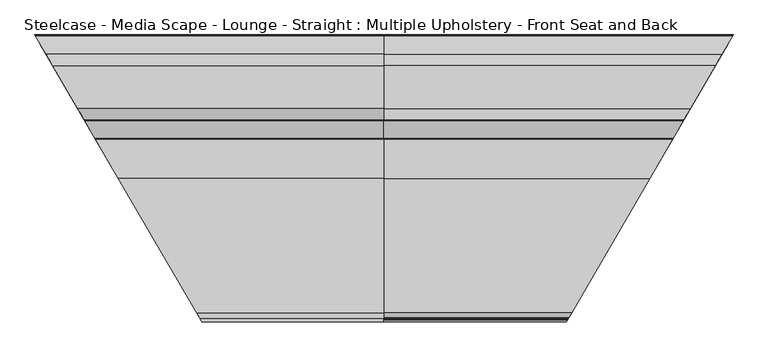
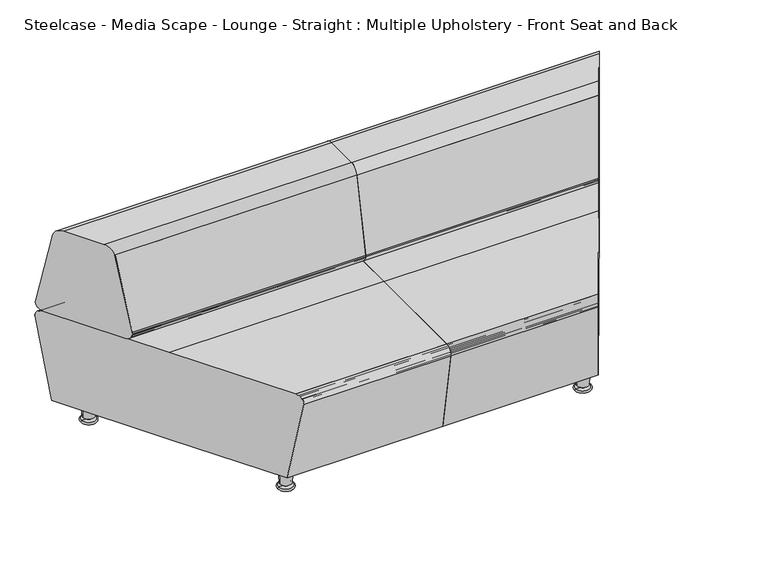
"""IFC4 building model written with IfcOpenShell, lengths in millimetres: furniture geometry, Steelcase - Media Scape - Lounge - Straight : Multiple Upholstery - Front Seat and Back."""

from ifc_helpers import new_model, si_unit, point, frame, origin, place, context, project, spatial, polyline, circle_curve, ellipse_curve, trimmed, source, transform, mapped, element, save
from ifc_brep_helpers import plane_surface, cylinder_surface, revolved_surface, advanced_brep


def steelcase_media_scape_lounge_straight_multiple_upholstery_0c6f12ab(model_context):
    return source(origin(), model_context, "Body", "AdvancedBrep", [
        advanced_brep(
        [(528.9638527, 744.618392, 735.1171206), (528.9638527, 619.0683436, 735.1171206), (528.9638527, 585.640659, 707.6422134), (528.9638527, 531.7822003, 434.7626426), (528.9638527, 556.7014693, 404.4443065), (528.9638527, 806.9852663, 404.4443065), (528.9638527, 831.9045354, 434.7626426), (528.9638527, 778.0460766, 707.6422134), (-452.3869175, 778.0460766, 707.6422134), (-432.9507329, 744.618392, 735.1171206), (-483.7023664, 831.9045354, 434.7626426), (-469.2133128, 806.9852663, 404.4443065), (-323.688364, 556.7014693, 404.4443065), (-309.1993104, 531.7822003, 434.7626426), (-340.5147593, 585.640659, 707.6422134), (-359.950944, 619.0683436, 735.1171206)],
        [
            (0, 1),
            (1, 2, circle_curve(frame((528.9638527, 619.0683436, 701.0445646), z_axis=(1.0, 0.0, 0.0), x_axis=(0.0, -1.0, 0.0)), 34.0725559)),
            (2, 3),
            (3, 4, circle_curve(frame((528.9638527, 556.7014693, 429.8443065), z_axis=(1.0, 0.0, 0.0), x_axis=(0.0, -1.0, 0.0)), 25.4)),
            (4, 5),
            (5, 6, circle_curve(frame((528.9638527, 806.9852663, 429.8443065), z_axis=(1.0, 0.0, 0.0), x_axis=(0.0, 1.0, 0.0)), 25.4)),
            (6, 7),
            (7, 0, circle_curve(frame((528.9638527, 744.618392, 701.0445646), z_axis=(1.0, 0.0, 0.0), x_axis=(0.0, 1.0, 0.0)), 34.0725559)),
            (7, 8),
            (8, 9, ellipse_curve(frame((-432.9507329, 744.618392, 701.0445646), z_axis=(0.8644905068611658, 0.5026491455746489, 0.0), x_axis=(-0.5026491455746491, 0.8644905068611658, 0.0)), 39.413453, 34.0725559)),
            (9, 0),
            (6, 10),
            (10, 8),
            (5, 11),
            (11, 10, ellipse_curve(frame((-469.2133128, 806.9852663, 429.8443065), z_axis=(0.8644905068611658, 0.5026491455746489, 0.0), x_axis=(-0.5026491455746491, 0.8644905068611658, 0.0)), 29.3814678, 25.4)),
            (4, 12),
            (12, 11),
            (3, 13),
            (13, 12, ellipse_curve(frame((-323.688364, 556.7014693, 429.8443065), z_axis=(0.8644905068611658, 0.5026491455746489, 0.0), x_axis=(-0.502649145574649, 0.8644905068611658, 0.0)), 29.3814678, 25.4)),
            (2, 14),
            (14, 13),
            (1, 15),
            (15, 14, ellipse_curve(frame((-359.950944, 619.0683436, 701.0445646), z_axis=(0.8644905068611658, 0.5026491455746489, 0.0), x_axis=(-0.502649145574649, 0.8644905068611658, 0.0)), 39.413453, 34.0725559)),
            (9, 15),
        ],
        [
            plane_surface(frame((528.9638527, 778.690948, 701.0445646), z_axis=(1.0, 0.0, 0.0), x_axis=(0.0, 0.0, 1.0))),
            cylinder_surface(frame((528.9638527, 744.618392, 701.0445646), z_axis=(-1.0, 0.0, 0.0), x_axis=(0.0, 1.0, 0.0)), 34.0725559),
            plane_surface(frame((-497.7585178, 778.0460766, 707.6422134), z_axis=(0.0, 0.9810735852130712, 0.19363527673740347), x_axis=(1.0, 0.0, 0.0))),
            cylinder_surface(frame((528.9638527, 806.9852663, 429.8443065), z_axis=(-1.0, 0.0, 0.0), x_axis=(0.0, 1.0, 0.0)), 25.4),
            plane_surface(frame((-497.7585178, 806.9852663, 404.4443065), z_axis=(0.0, 0.0, -1.0), x_axis=(1.0, 0.0, 0.0))),
            cylinder_surface(frame((528.9638527, 556.7014693, 429.8443065), z_axis=(-1.0, 0.0, 0.0), x_axis=(0.0, -1.0, 0.0)), 25.4),
            plane_surface(frame((-497.7585178, 531.7822003, 434.7626426), z_axis=(0.0, -0.9810735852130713, 0.1936352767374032), x_axis=(1.0, 0.0, 0.0))),
            cylinder_surface(frame((528.9638527, 619.0683436, 701.0445646), z_axis=(-1.0, 0.0, 0.0), x_axis=(0.0, -1.0, 0.0)), 34.0725559),
            plane_surface(frame((-497.7585178, 619.0683436, 735.1171206), z_axis=(0.0, 0.0, 1.0), x_axis=(1.0, 0.0, 0.0))),
            plane_surface(frame((22.6450752, -38.9465548, 744.9721396), z_axis=(-0.8644905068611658, -0.5026491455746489, 0.0), x_axis=(0.0, 0.0, -1.0))),
        ],
        [
            (0, [[1, 2, 3, 4, 5, 6, 7, 8]]),
            (1, [[-8, 9, 10, 11]]),
            (2, [[-7, 12, 13, -9]]),
            (3, [[-6, 14, 15, -12]]),
            (4, [[-5, 16, 17, -14]]),
            (5, [[-4, 18, 19, -16]]),
            (6, [[-3, 20, 21, -18]]),
            (7, [[-2, 22, 23, -20]]),
            (8, [[-1, -11, 24, -22]]),
            (9, [[-10, -13, -15, -17, -19, -21, -23, -24]]),
        ],
    ),
        advanced_brep(
        [(528.9638527, 416.9525328, 404.4443065), (528.9638527, 25.4465658, 404.4443065), (528.9638527, 0.4050887, 374.7917281), (528.9638527, 51.3770305, 74.6414242), (528.9638527, 416.9525328, 74.6414242), (528.9638527, 782.5280351, 74.6414242), (528.9638527, 833.4999769, 374.7917281), (528.9638527, 808.4584998, 404.4443065), (-242.4327771, 416.9525328, 404.4443065), (-14.7956449, 25.4465658, 404.4443065), (-0.2355347, 0.4050887, 374.7917281), (-29.8726479, 51.3770305, 74.6414242), (-242.4327771, 416.9525328, 74.6414242), (-454.9929064, 782.5280351, 74.6414242), (-484.6300196, 833.4999769, 374.7917281), (-470.0699093, 808.4584998, 404.4443065)],
        [
            (0, 1),
            (1, 2, circle_curve(frame((528.9638527, 25.4465658, 379.0443065), z_axis=(1.0, 0.0, 0.0), x_axis=(0.0, -1.0, 0.0)), 25.4)),
            (2, 3),
            (3, 4),
            (4, 5),
            (5, 6),
            (6, 7, circle_curve(frame((528.9638527, 808.4584998, 379.0443065), z_axis=(1.0, 0.0, 0.0), x_axis=(0.0, 1.0, 0.0)), 25.4)),
            (7, 0),
            (0, 8),
            (8, 9),
            (9, 1),
            (9, 10, ellipse_curve(frame((-14.7956449, 25.4465658, 379.0443065), z_axis=(0.8644905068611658, 0.5026491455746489, 0.0), x_axis=(0.502649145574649, -0.8644905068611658, 0.0)), 29.3814678, 25.4)),
            (10, 2),
            (10, 11),
            (11, 3),
            (11, 12),
            (12, 4),
            (12, 13),
            (13, 5),
            (13, 14),
            (14, 6),
            (14, 15, ellipse_curve(frame((-470.0699093, 808.4584998, 379.0443065), z_axis=(0.8644905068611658, 0.5026491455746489, 0.0), x_axis=(0.502649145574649, -0.8644905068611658, 0.0)), 29.3814678, 25.4)),
            (15, 7),
            (15, 8),
        ],
        [
            plane_surface(frame((528.9638527, -57.5722485, 404.4443065), z_axis=(1.0, 0.0, 0.0), x_axis=(0.0, -1.0, 0.0))),
            plane_surface(frame((528.9638527, 416.9525328, 404.4443065), z_axis=(0.0, 0.0, 1.0), x_axis=(-1.0, 0.0, 0.0))),
            cylinder_surface(frame((-497.7585178, 25.4465658, 379.0443065), z_axis=(1.0, 0.0, 0.0), x_axis=(0.0, -1.0, 0.0)), 25.4),
            plane_surface(frame((528.9638527, 0.4050887, 374.7917281), z_axis=(0.0, -0.9858849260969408, -0.16742434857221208), x_axis=(-1.0, 0.0, 0.0))),
            plane_surface(frame((528.9638527, 51.3770305, 74.6414242), z_axis=(0.0, 0.0, -1.0), x_axis=(-1.0, 0.0, 0.0))),
            plane_surface(frame((528.9638527, 416.9525328, 74.6414242), z_axis=(0.0, 0.0, -1.0), x_axis=(-1.0, 0.0, 0.0))),
            plane_surface(frame((528.9638527, 782.5280351, 74.6414242), z_axis=(0.0, 0.9858849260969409, -0.1674243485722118), x_axis=(-1.0, 0.0, 0.0))),
            cylinder_surface(frame((-497.7585178, 808.4584998, 379.0443065), z_axis=(1.0, 0.0, 0.0), x_axis=(0.0, 1.0, 0.0)), 25.4),
            plane_surface(frame((528.9638527, 808.4584998, 404.4443065), z_axis=(0.0, 0.0, 1.0), x_axis=(-1.0, 0.0, 0.0))),
            plane_surface(frame((22.6450752, -38.9465548, 744.9721396), z_axis=(-0.8644905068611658, -0.5026491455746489, 0.0), x_axis=(0.0, 0.0, -1.0))),
        ],
        [
            (0, [[1, 2, 3, 4, 5, 6, 7, 8]]),
            (1, [[-1, 9, 10, 11]]),
            (2, [[-2, -11, 12, 13]]),
            (3, [[-3, -13, 14, 15]]),
            (4, [[-4, -15, 16, 17]]),
            (5, [[-5, -17, 18, 19]]),
            (6, [[-6, -19, 20, 21]]),
            (7, [[-7, -21, 22, 23]]),
            (8, [[-8, -23, 24, -9]]),
            (9, [[-10, -24, -22, -20, -18, -16, -14, -12]]),
        ],
    ),
        advanced_brep(
        [(528.9638527, 416.9525328, 404.4443065), (528.9638527, 808.4584998, 404.4443065), (528.9638527, 833.4999769, 374.7917281), (528.9638527, 782.5280351, 74.6414242), (528.9638527, 416.9525328, 74.6414242), (528.9638527, 51.3770305, 74.6414242), (528.9638527, 0.4050887, 374.7917281), (528.9638527, 25.4465658, 404.4443065), (1301.6333208, 416.9525328, 404.4443065), (1528.798605, 808.4584998, 404.4443065), (1543.328535, 833.4999769, 374.7917281), (1513.7528538, 782.5280351, 74.6414242), (1301.6333208, 416.9525328, 74.6414242), (1089.5137878, 51.3770305, 74.6414242), (1059.9381066, 0.4050887, 374.7917281), (1074.4680366, 25.4465658, 404.4443065)],
        [
            (0, 1),
            (1, 2, circle_curve(frame((528.9638527, 808.4584998, 379.0443065), z_axis=(-1.0, 0.0, 0.0), x_axis=(0.0, 1.0, 0.0)), 25.4)),
            (2, 3),
            (3, 4),
            (4, 5),
            (5, 6),
            (6, 7, circle_curve(frame((528.9638527, 25.4465658, 379.0443065), z_axis=(-1.0, 0.0, 0.0), x_axis=(0.0, -1.0, 0.0)), 25.4)),
            (7, 0),
            (0, 8),
            (8, 9),
            (9, 1),
            (9, 10, ellipse_curve(frame((1528.798605, 808.4584998, 379.0443065), z_axis=(-0.8649431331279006, 0.5018698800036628, 0.0), x_axis=(-0.5018698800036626, -0.8649431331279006, 0.0)), 29.3660924, 25.4)),
            (10, 2),
            (10, 11),
            (11, 3),
            (11, 12),
            (12, 4),
            (12, 13),
            (13, 5),
            (13, 14),
            (14, 6),
            (14, 15, ellipse_curve(frame((1074.4680366, 25.4465658, 379.0443065), z_axis=(-0.8649431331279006, 0.5018698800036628, 0.0), x_axis=(-0.5018698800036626, -0.8649431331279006, 0.0)), 29.3660924, 25.4)),
            (15, 7),
            (15, 8),
        ],
        [
            plane_surface(frame((528.9638527, 891.4773142, 404.4443065), z_axis=(-1.0, 0.0, 0.0), x_axis=(0.0, 1.0, 0.0))),
            plane_surface(frame((528.9638527, 416.9525328, 404.4443065), z_axis=(0.0, 0.0, 1.0), x_axis=(1.0, 0.0, 0.0))),
            cylinder_surface(frame((1555.6862231, 808.4584998, 379.0443065), z_axis=(-1.0, 0.0, 0.0), x_axis=(0.0, 1.0, 0.0)), 25.4),
            plane_surface(frame((528.9638527, 833.4999769, 374.7917281), z_axis=(0.0, 0.9858849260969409, -0.1674243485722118), x_axis=(1.0, 0.0, 0.0))),
            plane_surface(frame((528.9638527, 782.5280351, 74.6414242), z_axis=(0.0, 0.0, -1.0), x_axis=(1.0, 0.0, 0.0))),
            plane_surface(frame((528.9638527, 416.9525328, 74.6414242), z_axis=(0.0, 0.0, -1.0), x_axis=(1.0, 0.0, 0.0))),
            plane_surface(frame((528.9638527, 51.3770305, 74.6414242), z_axis=(0.0, -0.9858849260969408, -0.16742434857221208), x_axis=(1.0, 0.0, 0.0))),
            cylinder_surface(frame((1555.6862231, 25.4465658, 379.0443065), z_axis=(-1.0, 0.0, 0.0), x_axis=(0.0, -1.0, 0.0)), 25.4),
            plane_surface(frame((528.9638527, 25.4465658, 404.4443065), z_axis=(0.0, 0.0, 1.0), x_axis=(1.0, 0.0, 0.0))),
            plane_surface(frame((1544.0895768, 834.8115876, 744.9721396), z_axis=(0.8649431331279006, -0.5018698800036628, 0.0), x_axis=(0.0, 0.0, -1.0))),
        ],
        [
            (0, [[1, 2, 3, 4, 5, 6, 7, 8]]),
            (1, [[-1, 9, 10, 11]]),
            (2, [[-2, -11, 12, 13]]),
            (3, [[-3, -13, 14, 15]]),
            (4, [[-4, -15, 16, 17]]),
            (5, [[-5, -17, 18, 19]]),
            (6, [[-6, -19, 20, 21]]),
            (7, [[-7, -21, 22, 23]]),
            (8, [[-8, -23, 24, -9]]),
            (9, [[-10, -24, -22, -20, -18, -16, -14, -12]]),
        ],
    ),
        advanced_brep(
        [(528.9638527, 744.618392, 735.1171206), (528.9638527, 778.0460766, 707.6422134), (528.9638527, 831.9045354, 434.7626426), (528.9638527, 806.9852663, 404.4443065), (528.9638527, 556.7014693, 404.4443065), (528.9638527, 531.7822003, 434.7626426), (528.9638527, 585.640659, 707.6422134), (528.9638527, 619.0683436, 735.1171206), (1418.9078951, 619.0683436, 735.1171206), (1491.7563695, 744.618392, 735.1171206), (1399.5119979, 585.640659, 707.6422134), (1368.26146, 531.7822003, 434.7626426), (1382.7204806, 556.7014693, 404.4443065), (1527.9437841, 806.9852663, 404.4443065), (1542.4028047, 831.9045354, 434.7626426), (1511.1522667, 778.0460766, 707.6422134)],
        [
            (0, 1, circle_curve(frame((528.9638527, 744.618392, 701.0445646), z_axis=(-1.0, 0.0, 0.0), x_axis=(0.0, 1.0, 0.0)), 34.0725559)),
            (1, 2),
            (2, 3, circle_curve(frame((528.9638527, 806.9852663, 429.8443065), z_axis=(-1.0, 0.0, 0.0), x_axis=(0.0, 1.0, 0.0)), 25.4)),
            (3, 4),
            (4, 5, circle_curve(frame((528.9638527, 556.7014693, 429.8443065), z_axis=(-1.0, 0.0, 0.0), x_axis=(0.0, -1.0, 0.0)), 25.4)),
            (5, 6),
            (6, 7, circle_curve(frame((528.9638527, 619.0683436, 701.0445646), z_axis=(-1.0, 0.0, 0.0), x_axis=(0.0, -1.0, 0.0)), 34.0725559)),
            (7, 0),
            (7, 8),
            (8, 9),
            (9, 0),
            (6, 10),
            (10, 8, ellipse_curve(frame((1418.9078951, 619.0683436, 701.0445646), z_axis=(-0.8649431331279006, 0.5018698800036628, 0.0), x_axis=(0.5018698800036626, 0.8649431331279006, 0.0)), 39.3928279, 34.0725559)),
            (5, 11),
            (11, 10),
            (4, 12),
            (12, 11, ellipse_curve(frame((1382.7204806, 556.7014693, 429.8443065), z_axis=(-0.8649431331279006, 0.5018698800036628, 0.0), x_axis=(0.5018698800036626, 0.8649431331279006, 0.0)), 29.3660924, 25.4)),
            (3, 13),
            (13, 12),
            (2, 14),
            (14, 13, ellipse_curve(frame((1527.9437841, 806.9852663, 429.8443065), z_axis=(-0.8649431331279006, 0.5018698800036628, 0.0), x_axis=(0.5018698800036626, 0.8649431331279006, 0.0)), 29.3660924, 25.4)),
            (1, 15),
            (15, 14),
            (9, 15, ellipse_curve(frame((1491.7563695, 744.618392, 701.0445646), z_axis=(-0.8649431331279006, 0.5018698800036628, 0.0), x_axis=(0.5018698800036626, 0.8649431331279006, 0.0)), 39.3928279, 34.0725559)),
        ],
        [
            plane_surface(frame((528.9638527, 567.2050656, 735.1171206), z_axis=(-1.0, 0.0, 0.0), x_axis=(0.0, 1.0, 0.0))),
            plane_surface(frame((1555.6862231, 744.618392, 735.1171206), z_axis=(0.0, 0.0, 1.0), x_axis=(-1.0, 0.0, 0.0))),
            cylinder_surface(frame((528.9638527, 619.0683436, 701.0445646), z_axis=(1.0, 0.0, 0.0), x_axis=(0.0, -1.0, 0.0)), 34.0725559),
            plane_surface(frame((1555.6862231, 585.640659, 707.6422134), z_axis=(0.0, -0.9810735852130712, 0.19363527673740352), x_axis=(-1.0, 0.0, 0.0))),
            cylinder_surface(frame((528.9638527, 556.7014693, 429.8443065), z_axis=(1.0, 0.0, 0.0), x_axis=(0.0, -1.0, 0.0)), 25.4),
            plane_surface(frame((1555.6862231, 556.7014693, 404.4443065), z_axis=(0.0, 0.0, -1.0), x_axis=(-1.0, 0.0, 0.0))),
            cylinder_surface(frame((528.9638527, 806.9852663, 429.8443065), z_axis=(1.0, 0.0, 0.0), x_axis=(0.0, 1.0, 0.0)), 25.4),
            plane_surface(frame((1555.6862231, 831.9045354, 434.7626426), z_axis=(0.0, 0.9810735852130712, 0.19363527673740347), x_axis=(-1.0, 0.0, 0.0))),
            cylinder_surface(frame((528.9638527, 744.618392, 701.0445646), z_axis=(1.0, 0.0, 0.0), x_axis=(0.0, 1.0, 0.0)), 34.0725559),
            plane_surface(frame((1544.0895768, 834.8115876, 744.9721396), z_axis=(0.8649431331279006, -0.5018698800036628, 0.0), x_axis=(0.0, 0.0, -1.0))),
        ],
        [
            (0, [[1, 2, 3, 4, 5, 6, 7, 8]]),
            (1, [[-8, 9, 10, 11]]),
            (2, [[-7, 12, 13, -9]]),
            (3, [[-6, 14, 15, -12]]),
            (4, [[-5, 16, 17, -14]]),
            (5, [[-4, 18, 19, -16]]),
            (6, [[-3, 20, 21, -18]]),
            (7, [[-2, 22, 23, -20]]),
            (8, [[-1, -11, 24, -22]]),
            (9, [[-10, -13, -15, -17, -19, -21, -23, -24]]),
        ],
    ),
        advanced_brep(
        [(528.9638527, 556.3973372, 404.1903065), (528.9638527, 531.4780681, 434.5086426), (528.9638527, 585.386659, 707.6422134), (528.9638527, 586.4222592, 707.6422134), (528.9638527, 532.5050909, 434.4651844), (528.9638527, 556.5535694, 405.2063065), (528.9638527, 807.0353985, 405.2063065), (528.9638527, 807.0353985, 404.1903065), (1527.9728725, 807.0353985, 404.1903065), (1382.5440126, 556.3973372, 404.1903065), (1527.9728725, 807.0353985, 405.2063065), (1382.6346639, 556.5535694, 405.2063065), (1368.6809061, 532.5050909, 434.4651844), (1399.9655094, 586.4222592, 707.6422134), (1399.3646184, 585.386659, 707.6422134), (1368.084992, 531.4780681, 434.5086426)],
        [
            (0, 1, circle_curve(frame((528.9638527, 556.3973372, 429.5903065), z_axis=(-1.0, 0.0, 0.0), x_axis=(0.0, -1.0, 0.0)), 25.4)),
            (1, 2),
            (2, 3),
            (3, 4),
            (4, 5, circle_curve(frame((528.9638527, 556.5535694, 429.718717), z_axis=(1.0, 0.0, 0.0), x_axis=(0.0, -1.0, 0.0)), 24.5124105)),
            (5, 6),
            (6, 7),
            (7, 0),
            (7, 8),
            (8, 9),
            (9, 0),
            (6, 10),
            (10, 8),
            (5, 11),
            (11, 10),
            (4, 12),
            (12, 11, ellipse_curve(frame((1382.6346639, 556.5535694, 429.718717), z_axis=(0.8649431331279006, -0.5018698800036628, 0.0), x_axis=(-0.5018698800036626, -0.8649431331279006, 0.0)), 28.33991, 24.5124105)),
            (3, 13),
            (13, 12),
            (2, 14),
            (14, 13),
            (1, 15),
            (15, 14),
            (9, 15, ellipse_curve(frame((1382.5440126, 556.3973372, 429.5903065), z_axis=(-0.8649431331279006, 0.5018698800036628, 0.0), x_axis=(0.5018698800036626, 0.8649431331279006, 0.0)), 29.3660924, 25.4)),
        ],
        [
            plane_surface(frame((528.9638527, 852.9550656, 404.1903065), z_axis=(-1.0, 0.0, 0.0), x_axis=(0.0, -1.0, 0.0))),
            plane_surface(frame((1555.6862231, 556.3973372, 404.1903065), z_axis=(0.0, 0.0, -1.0), x_axis=(-1.0, 0.0, 0.0))),
            plane_surface(frame((1555.6862231, 807.0353985, 404.1903065), z_axis=(0.0, 1.0, 0.0), x_axis=(-1.0, 0.0, 0.0))),
            plane_surface(frame((1555.6862231, 807.0353985, 405.2063065), z_axis=(0.0, 0.0, 1.0), x_axis=(-1.0, 0.0, 0.0))),
            revolved_surface(polyline([(528.9638527, 532.0411589, 429.718717), (1396.8576111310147, 532.0411589, 429.718717)]), (528.9638527, 556.5535694, 429.718717), (-1.0, 0.0, 0.0)),
            plane_surface(frame((1555.6862231, 532.5050909, 434.4651844), z_axis=(0.0, 0.9810735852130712, -0.19363527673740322), x_axis=(-1.0, 0.0, 0.0))),
            plane_surface(frame((1555.6862231, 586.4222592, 707.6422134), z_axis=(0.0, 0.0, 1.0), x_axis=(-1.0, 0.0, 0.0))),
            plane_surface(frame((1555.6862231, 585.386659, 707.6422134), z_axis=(0.0, -0.9810735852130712, 0.1936352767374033), x_axis=(-1.0, 0.0, 0.0))),
            cylinder_surface(frame((528.9638527, 556.3973372, 429.5903065), z_axis=(1.0, 0.0, 0.0), x_axis=(0.0, -1.0, 0.0)), 25.4),
            plane_surface(frame((1544.0895768, 834.8115876, 1808.8293217), z_axis=(0.8649431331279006, -0.5018698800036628, 0.0), x_axis=(0.0, 0.0, -1.0))),
        ],
        [
            (0, [[1, 2, 3, 4, 5, 6, 7, 8]]),
            (1, [[-8, 9, 10, 11]]),
            (2, [[-7, 12, 13, -9]]),
            (3, [[-6, 14, 15, -12]]),
            (4, [[-5, 16, 17, -14]]),
            (5, [[-4, 18, 19, -16]]),
            (6, [[-3, 20, 21, -18]]),
            (7, [[-2, 22, 23, -20]]),
            (8, [[-1, -11, 24, -22]]),
            (9, [[-10, -13, -15, -17, -19, -21, -23, -24]]),
        ],
    ),
        advanced_brep(
        [(528.9638527, 556.3973372, 404.1903065), (528.9638527, 807.0353985, 404.1903065), (528.9638527, 807.0353985, 405.2063065), (528.9638527, 556.5535694, 405.2063065), (528.9638527, 532.5050909, 434.4651844), (528.9638527, 586.4222592, 707.6422134), (528.9638527, 585.386659, 707.6422134), (528.9638527, 531.4780681, 434.5086426), (-309.0224759, 531.4780681, 434.5086426), (-323.5115295, 556.3973372, 404.1903065), (-340.3670736, 585.386659, 707.6422134), (-340.9692127, 586.4222592, 707.6422134), (-309.6196278, 532.5050909, 434.4651844), (-323.6023691, 556.5535694, 405.2063065), (-469.2424616, 807.0353985, 405.2063065), (-469.2424616, 807.0353985, 404.1903065)],
        [
            (0, 1),
            (1, 2),
            (2, 3),
            (3, 4, circle_curve(frame((528.9638527, 556.5535694, 429.718717), z_axis=(-1.0, 0.0, 0.0), x_axis=(0.0, -1.0, 0.0)), 24.5124105)),
            (4, 5),
            (5, 6),
            (6, 7),
            (7, 0, circle_curve(frame((528.9638527, 556.3973372, 429.5903065), z_axis=(1.0, 0.0, 0.0), x_axis=(0.0, -1.0, 0.0)), 25.4)),
            (7, 8),
            (8, 9, ellipse_curve(frame((-323.5115295, 556.3973372, 429.5903065), z_axis=(0.8644905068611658, 0.5026491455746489, 0.0), x_axis=(-0.502649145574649, 0.8644905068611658, 0.0)), 29.3814678, 25.4)),
            (9, 0),
            (6, 10),
            (10, 8),
            (5, 11),
            (11, 10),
            (4, 12),
            (12, 11),
            (3, 13),
            (13, 12, ellipse_curve(frame((-323.6023691, 556.5535694, 429.718717), z_axis=(-0.8644905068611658, -0.5026491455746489, 0.0), x_axis=(0.502649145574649, -0.8644905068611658, 0.0)), 28.354748, 24.5124105)),
            (2, 14),
            (14, 13),
            (1, 15),
            (15, 14),
            (9, 15),
        ],
        [
            plane_surface(frame((528.9638527, 530.9973372, 429.5903065), z_axis=(1.0, 0.0, 0.0), x_axis=(0.0, 0.0, -1.0))),
            cylinder_surface(frame((528.9638527, 556.3973372, 429.5903065), z_axis=(-1.0, 0.0, 0.0), x_axis=(0.0, -1.0, 0.0)), 25.4),
            plane_surface(frame((-497.7585178, 531.4780681, 434.5086426), z_axis=(0.0, -0.9810735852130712, 0.1936352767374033), x_axis=(1.0, 0.0, 0.0))),
            plane_surface(frame((-497.7585178, 585.386659, 707.6422134), z_axis=(0.0, 0.0, 1.0), x_axis=(1.0, 0.0, 0.0))),
            plane_surface(frame((-497.7585178, 586.4222592, 707.6422134), z_axis=(0.0, 0.9810735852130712, -0.19363527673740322), x_axis=(1.0, 0.0, 0.0))),
            revolved_surface(polyline([(528.9638527, 532.0411589, 429.718717), (-337.85485895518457, 532.0411589, 429.718717)]), (528.9638527, 556.5535694, 429.718717), (1.0, 0.0, 0.0)),
            plane_surface(frame((-497.7585178, 556.5535694, 405.2063065), z_axis=(0.0, 0.0, 1.0), x_axis=(1.0, 0.0, 0.0))),
            plane_surface(frame((-497.7585178, 807.0353985, 405.2063065), z_axis=(0.0, 1.0, 0.0), x_axis=(1.0, 0.0, 0.0))),
            plane_surface(frame((-497.7585178, 807.0353985, 404.1903065), z_axis=(0.0, 0.0, -1.0), x_axis=(1.0, 0.0, 0.0))),
            plane_surface(frame((22.6450752, -38.9465548, 1808.8293217), z_axis=(-0.8644905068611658, -0.5026491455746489, 0.0), x_axis=(0.0, 0.0, -1.0))),
        ],
        [
            (0, [[1, 2, 3, 4, 5, 6, 7, 8]]),
            (1, [[-8, 9, 10, 11]]),
            (2, [[-7, 12, 13, -9]]),
            (3, [[-6, 14, 15, -12]]),
            (4, [[-5, 16, 17, -14]]),
            (5, [[-4, 18, 19, -16]]),
            (6, [[-3, 20, 21, -18]]),
            (7, [[-2, 22, 23, -20]]),
            (8, [[-1, -11, 24, -22]]),
            (9, [[-10, -13, -15, -17, -19, -21, -23, -24]]),
        ],
    ),
        advanced_brep(
        [(528.9638527, 416.9525328, 404.6983065), (528.9638527, 808.759271, 404.6983065), (528.9638527, 833.8007481, 375.0457281), (528.9638527, 0.1043175, 375.0457281), (528.9638527, 25.1457946, 404.6983065), (1301.6333208, 416.9525328, 404.6983065), (1528.9731229, 808.759271, 404.6983065), (1543.5030528, 833.8007481, 375.0457281), (1059.7635888, 0.1043175, 375.0457281), (1074.2935187, 25.1457946, 404.6983065)],
        [
            (0, 1),
            (1, 2, circle_curve(frame((528.9638527, 808.759271, 379.2983065), z_axis=(-1.0, 0.0, 0.0), x_axis=(0.0, 1.0, 0.0)), 25.4)),
            (2, 3),
            (3, 4, circle_curve(frame((528.9638527, 25.1457946, 379.2983065), z_axis=(-1.0, 0.0, 0.0), x_axis=(0.0, -1.0, 0.0)), 25.4)),
            (4, 0),
            (0, 5),
            (5, 6),
            (6, 1),
            (6, 7, ellipse_curve(frame((1528.9731229, 808.759271, 379.2983065), z_axis=(-0.8649431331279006, 0.5018698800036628, 0.0), x_axis=(-0.5018698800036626, -0.8649431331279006, 0.0)), 29.3660924, 25.4)),
            (7, 2),
            (7, 8),
            (8, 3),
            (8, 9, ellipse_curve(frame((1074.2935187, 25.1457946, 379.2983065), z_axis=(-0.8649431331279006, 0.5018698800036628, 0.0), x_axis=(-0.5018698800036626, -0.8649431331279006, 0.0)), 29.3660924, 25.4)),
            (9, 4),
            (9, 5),
        ],
        [
            plane_surface(frame((528.9638527, 891.4773142, 404.6983065), z_axis=(-1.0, 0.0, 0.0), x_axis=(0.0, 1.0, 0.0))),
            plane_surface(frame((528.9638527, 416.9525328, 404.6983065), z_axis=(0.0, 0.0, 1.0), x_axis=(1.0, 0.0, 0.0))),
            cylinder_surface(frame((1555.6087571, 808.759271, 379.2983065), z_axis=(-1.0, 0.0, 0.0), x_axis=(0.0, 1.0, 0.0)), 25.4),
            plane_surface(frame((528.9638527, 833.8007481, 375.0457281), z_axis=(0.0, 0.0, -1.0), x_axis=(1.0, 0.0, 0.0))),
            cylinder_surface(frame((1555.6087571, 25.1457946, 379.2983065), z_axis=(-1.0, 0.0, 0.0), x_axis=(0.0, -1.0, 0.0)), 25.4),
            plane_surface(frame((528.9638527, 25.1457946, 404.6983065), z_axis=(0.0, 0.0, 1.0), x_axis=(1.0, 0.0, 0.0))),
            plane_surface(frame((1544.0895768, 834.8115876, 1808.8293217), z_axis=(0.8649431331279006, -0.5018698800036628, 0.0), x_axis=(0.0, 0.0, -1.0))),
        ],
        [
            (0, [[1, 2, 3, 4, 5]]),
            (1, [[-1, 6, 7, 8]]),
            (2, [[-2, -8, 9, 10]]),
            (3, [[-3, -10, 11, 12]]),
            (4, [[-4, -12, 13, 14]]),
            (5, [[-5, -14, 15, -6]]),
            (6, [[-7, -15, -13, -11, -9]]),
        ],
    ),
        advanced_brep(
        [(528.9638527, 416.9525328, 404.6983065), (528.9638527, 25.1457946, 404.6983065), (528.9638527, 0.1043175, 375.0457281), (528.9638527, 833.8007481, 375.0457281), (528.9638527, 808.759271, 404.6983065), (-242.4327771, 416.9525328, 404.6983065), (-14.6207646, 25.1457946, 404.6983065), (-0.0606543, 0.1043175, 375.0457281), (-484.8048999, 833.8007481, 375.0457281), (-470.2447896, 808.759271, 404.6983065)],
        [
            (0, 1),
            (1, 2, circle_curve(frame((528.9638527, 25.1457946, 379.2983065), z_axis=(1.0, 0.0, 0.0), x_axis=(0.0, -1.0, 0.0)), 25.4)),
            (2, 3),
            (3, 4, circle_curve(frame((528.9638527, 808.759271, 379.2983065), z_axis=(1.0, 0.0, 0.0), x_axis=(0.0, 1.0, 0.0)), 25.4)),
            (4, 0),
            (0, 5),
            (5, 6),
            (6, 1),
            (6, 7, ellipse_curve(frame((-14.6207646, 25.1457946, 379.2983065), z_axis=(0.8644905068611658, 0.5026491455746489, 0.0), x_axis=(0.502649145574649, -0.8644905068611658, 0.0)), 29.3814678, 25.4)),
            (7, 2),
            (7, 8),
            (8, 3),
            (8, 9, ellipse_curve(frame((-470.2447896, 808.759271, 379.2983065), z_axis=(0.8644905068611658, 0.5026491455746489, 0.0), x_axis=(0.502649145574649, -0.8644905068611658, 0.0)), 29.3814678, 25.4)),
            (9, 4),
            (9, 5),
        ],
        [
            plane_surface(frame((528.9638527, -57.5722485, 404.6983065), z_axis=(1.0, 0.0, 0.0), x_axis=(0.0, -1.0, 0.0))),
            plane_surface(frame((528.9638527, 416.9525328, 404.6983065), z_axis=(0.0, 0.0, 1.0), x_axis=(-1.0, 0.0, 0.0))),
            cylinder_surface(frame((-497.6810517, 25.1457946, 379.2983065), z_axis=(1.0, 0.0, 0.0), x_axis=(0.0, -1.0, 0.0)), 25.4),
            plane_surface(frame((528.9638527, 0.1043175, 375.0457281), z_axis=(0.0, 0.0, -1.0), x_axis=(-1.0, 0.0, 0.0))),
            cylinder_surface(frame((-497.6810517, 808.759271, 379.2983065), z_axis=(1.0, 0.0, 0.0), x_axis=(0.0, 1.0, 0.0)), 25.4),
            plane_surface(frame((528.9638527, 808.759271, 404.6983065), z_axis=(0.0, 0.0, 1.0), x_axis=(-1.0, 0.0, 0.0))),
            plane_surface(frame((22.6450752, -38.9465548, 1808.8293217), z_axis=(-0.8644905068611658, -0.5026491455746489, 0.0), x_axis=(0.0, 0.0, -1.0))),
        ],
        [
            (0, [[1, 2, 3, 4, 5]]),
            (1, [[-1, 6, 7, 8]]),
            (2, [[-2, -8, 9, 10]]),
            (3, [[-3, -10, 11, 12]]),
            (4, [[-4, -12, 13, 14]]),
            (5, [[-5, -14, 15, -6]]),
            (6, [[-7, -15, -13, -11, -9]]),
        ],
    ),
        advanced_brep(
        [(1415.6593492, 727.0057274, 74.1561731), (1439.4462694, 727.0057274, 74.1561731), (1391.8724291, 727.0057274, 74.1561731), (1389.605707, 727.0057274, 0.0), (1441.7129915, 727.0057274, 0.0), (1415.6593492, 727.0057274, 0.0), (1389.605707, 727.0057274, 6.3788302), (1441.7129915, 727.0057274, 6.3788302), (1406.1343492, 727.0057274, 6.3788302), (1425.1843492, 727.0057274, 6.3788302), (1406.1343492, 727.0057274, 17.057519), (1425.1843492, 727.0057274, 17.057519), (1394.704233, 727.0057274, 17.057519), (1436.6144655, 727.0057274, 17.057519)],
        [
            (0, 1),
            (1, 2, circle_curve(frame((1415.6593492, 727.0057274, 74.1561731), z_axis=(0.0, 0.0, 1.0), x_axis=(1.0, 0.0, 0.0)), 23.7869202)),
            (2, 0),
            (2, 1, circle_curve(frame((1415.6593492, 727.0057274, 74.1561731), z_axis=(0.0, 0.0, 1.0), x_axis=(1.0, 0.0, 0.0)), 23.7869202)),
            (3, 4, circle_curve(frame((1415.6593492, 727.0057274, 0.0), z_axis=(0.0, 0.0, -1.0), x_axis=(1.0, 0.0, 0.0)), 26.0536423)),
            (4, 5),
            (5, 3),
            (4, 3, circle_curve(frame((1415.6593492, 727.0057274, 0.0), z_axis=(0.0, 0.0, -1.0), x_axis=(1.0, 0.0, 0.0)), 26.0536423)),
            (3, 6, circle_curve(frame((1389.605707, 727.0057274, 3.1894151), z_axis=(0.0, 1.0, 0.0), x_axis=(-1.0, 0.0, 0.0)), 3.1894151)),
            (6, 7, circle_curve(frame((1415.6593492, 727.0057274, 6.3788302), z_axis=(0.0, 0.0, -1.0), x_axis=(1.0, 0.0, 0.0)), 26.0536423)),
            (7, 4, circle_curve(frame((1441.7129915, 727.0057274, 3.1894151), z_axis=(0.0, 1.0, 0.0), x_axis=(1.0, 0.0, 0.0)), 3.1894151)),
            (7, 6, circle_curve(frame((1415.6593492, 727.0057274, 6.3788302), z_axis=(0.0, 0.0, -1.0), x_axis=(1.0, 0.0, 0.0)), 26.0536423)),
            (6, 8),
            (8, 9, circle_curve(frame((1415.6593492, 727.0057274, 6.3788302), z_axis=(0.0, 0.0, -1.0), x_axis=(1.0, 0.0, 0.0)), 9.525)),
            (9, 7),
            (9, 8, circle_curve(frame((1415.6593492, 727.0057274, 6.3788302), z_axis=(0.0, 0.0, -1.0), x_axis=(1.0, 0.0, 0.0)), 9.525)),
            (8, 10),
            (10, 11, circle_curve(frame((1415.6593492, 727.0057274, 17.057519), z_axis=(0.0, 0.0, -1.0), x_axis=(1.0, 0.0, 0.0)), 9.525)),
            (11, 9),
            (11, 10, circle_curve(frame((1415.6593492, 727.0057274, 17.057519), z_axis=(0.0, 0.0, -1.0), x_axis=(1.0, 0.0, 0.0)), 9.525)),
            (10, 12),
            (12, 13, circle_curve(frame((1415.6593492, 727.0057274, 17.057519), z_axis=(0.0, 0.0, -1.0), x_axis=(1.0, 0.0, 0.0)), 20.9551163)),
            (13, 11),
            (13, 12, circle_curve(frame((1415.6593492, 727.0057274, 17.057519), z_axis=(0.0, 0.0, -1.0), x_axis=(1.0, 0.0, 0.0)), 20.9551163)),
            (1, 13),
            (12, 2),
        ],
        [
            plane_surface(frame((1415.6593492, 727.0057274, 74.1561731), z_axis=(0.0, 0.0, 1.0), x_axis=(1.0, 0.0, 0.0))),
            plane_surface(frame((1415.6593492, 727.0057274, 0.0), z_axis=(0.0, 0.0, -1.0), x_axis=(1.0, 0.0, 0.0))),
            revolved_surface(trimmed(ellipse_curve(frame((1441.7129915, 727.0057274, 3.1894151), z_axis=(0.0, -1.0, 0.0), x_axis=(1.0, 0.0, 0.0)), 3.1894151, 3.1894151), [point((1441.7129915, 727.0057274, 0.0))], [point((1441.7129915, 727.0057274, 6.3788302))], True, "CARTESIAN"), (1415.6593492, 727.0057274, 61.4561731), (0.0, 0.0, 1.0)),
            plane_surface(frame((1415.6593492, 727.0057274, 6.3788302), z_axis=(0.0, 0.0, 1.0), x_axis=(1.0, 0.0, 0.0))),
            cylinder_surface(frame((1415.6593492, 727.0057274, 61.4561731), z_axis=(0.0, 0.0, 1.0), x_axis=(1.0, 0.0, 0.0)), 9.525),
            plane_surface(frame((1415.6593492, 727.0057274, 17.057519), z_axis=(0.0, 0.0, -1.0), x_axis=(1.0, 0.0, 0.0))),
            revolved_surface(polyline([(1436.6144655, 727.0057274, 17.057519), (1439.4462694, 727.0057274, 74.1561731)]), (1415.6593492, 727.0057274, 61.4561731), (0.0, 0.0, 1.0)),
        ],
        [
            (0, [[1, 2, 3]]),
            (0, [[-1, -3, 4]]),
            (1, [[5, 6, 7]]),
            (1, [[-6, 8, -7]]),
            (2, [[-5, 9, 10, 11]]),
            (2, [[-8, -11, 12, -9]]),
            (3, [[-10, 13, 14, 15]]),
            (3, [[-12, -15, 16, -13]]),
            (4, [[-14, 17, 18, 19]]),
            (4, [[-16, -19, 20, -17]]),
            (5, [[-18, 21, 22, 23]]),
            (5, [[-20, -23, 24, -21]]),
            (6, [[-2, 25, -22, 26]]),
            (6, [[-4, -26, -24, -25]]),
        ],
    ),
        advanced_brep(
        [(1064.6697268, 106.8143681, 74.1561731), (1088.4566469, 106.8143681, 74.1561731), (1040.8828066, 106.8143681, 74.1561731), (1038.6160845, 106.8143681, 0.0), (1090.723369, 106.8143681, 0.0), (1064.6697268, 106.8143681, 0.0), (1038.6160845, 106.8143681, 6.3788302), (1090.723369, 106.8143681, 6.3788302), (1055.1447268, 106.8143681, 6.3788302), (1074.1947268, 106.8143681, 6.3788302), (1055.1447268, 106.8143681, 17.057519), (1074.1947268, 106.8143681, 17.057519), (1043.7146105, 106.8143681, 17.057519), (1085.624843, 106.8143681, 17.057519)],
        [
            (0, 1),
            (1, 2, circle_curve(frame((1064.6697268, 106.8143681, 74.1561731), z_axis=(0.0, 0.0, 1.0), x_axis=(1.0, 0.0, 0.0)), 23.7869202)),
            (2, 0),
            (2, 1, circle_curve(frame((1064.6697268, 106.8143681, 74.1561731), z_axis=(0.0, 0.0, 1.0), x_axis=(1.0, 0.0, 0.0)), 23.7869202)),
            (3, 4, circle_curve(frame((1064.6697268, 106.8143681, 0.0), z_axis=(0.0, 0.0, -1.0), x_axis=(1.0, 0.0, 0.0)), 26.0536423)),
            (4, 5),
            (5, 3),
            (4, 3, circle_curve(frame((1064.6697268, 106.8143681, 0.0), z_axis=(0.0, 0.0, -1.0), x_axis=(1.0, 0.0, 0.0)), 26.0536423)),
            (3, 6, circle_curve(frame((1038.6160845, 106.8143681, 3.1894151), z_axis=(0.0, 1.0, 0.0), x_axis=(-1.0, 0.0, 0.0)), 3.1894151)),
            (6, 7, circle_curve(frame((1064.6697268, 106.8143681, 6.3788302), z_axis=(0.0, 0.0, -1.0), x_axis=(1.0, 0.0, 0.0)), 26.0536423)),
            (7, 4, circle_curve(frame((1090.723369, 106.8143681, 3.1894151), z_axis=(0.0, 1.0, 0.0), x_axis=(1.0, 0.0, 0.0)), 3.1894151)),
            (7, 6, circle_curve(frame((1064.6697268, 106.8143681, 6.3788302), z_axis=(0.0, 0.0, -1.0), x_axis=(1.0, 0.0, 0.0)), 26.0536423)),
            (6, 8),
            (8, 9, circle_curve(frame((1064.6697268, 106.8143681, 6.3788302), z_axis=(0.0, 0.0, -1.0), x_axis=(1.0, 0.0, 0.0)), 9.525)),
            (9, 7),
            (9, 8, circle_curve(frame((1064.6697268, 106.8143681, 6.3788302), z_axis=(0.0, 0.0, -1.0), x_axis=(1.0, 0.0, 0.0)), 9.525)),
            (8, 10),
            (10, 11, circle_curve(frame((1064.6697268, 106.8143681, 17.057519), z_axis=(0.0, 0.0, -1.0), x_axis=(1.0, 0.0, 0.0)), 9.525)),
            (11, 9),
            (11, 10, circle_curve(frame((1064.6697268, 106.8143681, 17.057519), z_axis=(0.0, 0.0, -1.0), x_axis=(1.0, 0.0, 0.0)), 9.525)),
            (10, 12),
            (12, 13, circle_curve(frame((1064.6697268, 106.8143681, 17.057519), z_axis=(0.0, 0.0, -1.0), x_axis=(1.0, 0.0, 0.0)), 20.9551163)),
            (13, 11),
            (13, 12, circle_curve(frame((1064.6697268, 106.8143681, 17.057519), z_axis=(0.0, 0.0, -1.0), x_axis=(1.0, 0.0, 0.0)), 20.9551163)),
            (1, 13),
            (12, 2),
        ],
        [
            plane_surface(frame((1064.6697268, 106.8143681, 74.1561731), z_axis=(0.0, 0.0, 1.0), x_axis=(1.0, 0.0, 0.0))),
            plane_surface(frame((1064.6697268, 106.8143681, 0.0), z_axis=(0.0, 0.0, -1.0), x_axis=(1.0, 0.0, 0.0))),
            revolved_surface(trimmed(ellipse_curve(frame((1090.723369, 106.8143681, 3.1894151), z_axis=(0.0, -1.0, 0.0), x_axis=(1.0, 0.0, 0.0)), 3.1894151, 3.1894151), [point((1090.723369, 106.8143681, 0.0))], [point((1090.723369, 106.8143681, 6.3788302))], True, "CARTESIAN"), (1064.6697268, 106.8143681, 61.4561731), (0.0, 0.0, 1.0)),
            plane_surface(frame((1064.6697268, 106.8143681, 6.3788302), z_axis=(0.0, 0.0, 1.0), x_axis=(1.0, 0.0, 0.0))),
            cylinder_surface(frame((1064.6697268, 106.8143681, 61.4561731), z_axis=(0.0, 0.0, 1.0), x_axis=(1.0, 0.0, 0.0)), 9.525),
            plane_surface(frame((1064.6697268, 106.8143681, 17.057519), z_axis=(0.0, 0.0, -1.0), x_axis=(1.0, 0.0, 0.0))),
            revolved_surface(polyline([(1085.624843, 106.8143681, 17.057519), (1088.4566469, 106.8143681, 74.1561731)]), (1064.6697268, 106.8143681, 61.4561731), (0.0, 0.0, 1.0)),
        ],
        [
            (0, [[1, 2, 3]]),
            (0, [[-1, -3, 4]]),
            (1, [[5, 6, 7]]),
            (1, [[-6, 8, -7]]),
            (2, [[-5, 9, 10, 11]]),
            (2, [[-8, -11, 12, -9]]),
            (3, [[-10, 13, 14, 15]]),
            (3, [[-12, -15, 16, -13]]),
            (4, [[-14, 17, 18, 19]]),
            (4, [[-16, -19, 20, -17]]),
            (5, [[-18, 21, 22, 23]]),
            (5, [[-20, -23, 24, -21]]),
            (6, [[-2, 25, -22, 26]]),
            (6, [[-4, -26, -24, -25]]),
        ],
    ),
        advanced_brep(
        [(-3.0976561, 106.8143681, 74.1561731), (20.6892641, 106.8143681, 74.1561731), (-26.8845762, 106.8143681, 74.1561731), (-29.1512983, 106.8143681, 0.0), (22.9559862, 106.8143681, 0.0), (-3.0976561, 106.8143681, 0.0), (-29.1512983, 106.8143681, 6.3788302), (22.9559862, 106.8143681, 6.3788302), (-12.6226561, 106.8143681, 6.3788302), (6.4273439, 106.8143681, 6.3788302), (-12.6226561, 106.8143681, 17.057519), (6.4273439, 106.8143681, 17.057519), (-24.0527723, 106.8143681, 17.057519), (17.8574602, 106.8143681, 17.057519)],
        [
            (0, 1),
            (1, 2, circle_curve(frame((-3.0976561, 106.8143681, 74.1561731), z_axis=(0.0, 0.0, 1.0), x_axis=(1.0, 0.0, 0.0)), 23.7869202)),
            (2, 0),
            (2, 1, circle_curve(frame((-3.0976561, 106.8143681, 74.1561731), z_axis=(0.0, 0.0, 1.0), x_axis=(1.0, 0.0, 0.0)), 23.7869202)),
            (3, 4, circle_curve(frame((-3.0976561, 106.8143681, 0.0), z_axis=(0.0, 0.0, -1.0), x_axis=(1.0, 0.0, 0.0)), 26.0536423)),
            (4, 5),
            (5, 3),
            (4, 3, circle_curve(frame((-3.0976561, 106.8143681, 0.0), z_axis=(0.0, 0.0, -1.0), x_axis=(1.0, 0.0, 0.0)), 26.0536423)),
            (3, 6, circle_curve(frame((-29.1512983, 106.8143681, 3.1894151), z_axis=(0.0, 1.0, 0.0), x_axis=(-1.0, 0.0, 0.0)), 3.1894151)),
            (6, 7, circle_curve(frame((-3.0976561, 106.8143681, 6.3788302), z_axis=(0.0, 0.0, -1.0), x_axis=(1.0, 0.0, 0.0)), 26.0536423)),
            (7, 4, circle_curve(frame((22.9559862, 106.8143681, 3.1894151), z_axis=(0.0, 1.0, 0.0), x_axis=(1.0, 0.0, 0.0)), 3.1894151)),
            (7, 6, circle_curve(frame((-3.0976561, 106.8143681, 6.3788302), z_axis=(0.0, 0.0, -1.0), x_axis=(1.0, 0.0, 0.0)), 26.0536423)),
            (6, 8),
            (8, 9, circle_curve(frame((-3.0976561, 106.8143681, 6.3788302), z_axis=(0.0, 0.0, -1.0), x_axis=(1.0, 0.0, 0.0)), 9.525)),
            (9, 7),
            (9, 8, circle_curve(frame((-3.0976561, 106.8143681, 6.3788302), z_axis=(0.0, 0.0, -1.0), x_axis=(1.0, 0.0, 0.0)), 9.525)),
            (8, 10),
            (10, 11, circle_curve(frame((-3.0976561, 106.8143681, 17.057519), z_axis=(0.0, 0.0, -1.0), x_axis=(1.0, 0.0, 0.0)), 9.525)),
            (11, 9),
            (11, 10, circle_curve(frame((-3.0976561, 106.8143681, 17.057519), z_axis=(0.0, 0.0, -1.0), x_axis=(1.0, 0.0, 0.0)), 9.525)),
            (10, 12),
            (12, 13, circle_curve(frame((-3.0976561, 106.8143681, 17.057519), z_axis=(0.0, 0.0, -1.0), x_axis=(1.0, 0.0, 0.0)), 20.9551163)),
            (13, 11),
            (13, 12, circle_curve(frame((-3.0976561, 106.8143681, 17.057519), z_axis=(0.0, 0.0, -1.0), x_axis=(1.0, 0.0, 0.0)), 20.9551163)),
            (1, 13),
            (12, 2),
        ],
        [
            plane_surface(frame((-3.0976561, 106.8143681, 74.1561731), z_axis=(0.0, 0.0, 1.0), x_axis=(1.0, 0.0, 0.0))),
            plane_surface(frame((-3.0976561, 106.8143681, 0.0), z_axis=(0.0, 0.0, -1.0), x_axis=(1.0, 0.0, 0.0))),
            revolved_surface(trimmed(ellipse_curve(frame((22.9559862, 106.8143681, 3.1894151), z_axis=(0.0, -1.0, 0.0), x_axis=(1.0, 0.0, 0.0)), 3.1894151, 3.1894151), [point((22.9559862, 106.8143681, 0.0))], [point((22.9559862, 106.8143681, 6.3788302))], True, "CARTESIAN"), (-3.0976561, 106.8143681, 61.4561731), (0.0, 0.0, 1.0)),
            plane_surface(frame((-3.0976561, 106.8143681, 6.3788302), z_axis=(0.0, 0.0, 1.0), x_axis=(1.0, 0.0, 0.0))),
            cylinder_surface(frame((-3.0976561, 106.8143681, 61.4561731), z_axis=(0.0, 0.0, 1.0), x_axis=(1.0, 0.0, 0.0)), 9.525),
            plane_surface(frame((-3.0976561, 106.8143681, 17.057519), z_axis=(0.0, 0.0, -1.0), x_axis=(1.0, 0.0, 0.0))),
            revolved_surface(polyline([(17.8574602, 106.8143681, 17.057519), (20.6892641, 106.8143681, 74.1561731)]), (-3.0976561, 106.8143681, 61.4561731), (0.0, 0.0, 1.0)),
        ],
        [
            (0, [[1, 2, 3]]),
            (0, [[-1, -3, 4]]),
            (1, [[5, 6, 7]]),
            (1, [[-6, 8, -7]]),
            (2, [[-5, 9, 10, 11]]),
            (2, [[-8, -11, 12, -9]]),
            (3, [[-10, 13, 14, 15]]),
            (3, [[-12, -15, 16, -13]]),
            (4, [[-14, 17, 18, 19]]),
            (4, [[-16, -19, 20, -17]]),
            (5, [[-18, 21, 22, 23]]),
            (5, [[-20, -23, 24, -21]]),
            (6, [[-2, 25, -22, 26]]),
            (6, [[-4, -26, -24, -25]]),
        ],
    ),
        advanced_brep(
        [(-353.6250975, 727.0057274, 74.1561731), (-329.8381773, 727.0057274, 74.1561731), (-377.4120176, 727.0057274, 74.1561731), (-379.6787397, 727.0057274, 0.0), (-327.5714552, 727.0057274, 0.0), (-353.6250975, 727.0057274, 0.0), (-379.6787397, 727.0057274, 6.3788302), (-327.5714552, 727.0057274, 6.3788302), (-363.1500975, 727.0057274, 6.3788302), (-344.1000975, 727.0057274, 6.3788302), (-363.1500975, 727.0057274, 17.057519), (-344.1000975, 727.0057274, 17.057519), (-374.5802137, 727.0057274, 17.057519), (-332.6699812, 727.0057274, 17.057519)],
        [
            (0, 1),
            (1, 2, circle_curve(frame((-353.6250975, 727.0057274, 74.1561731), z_axis=(0.0, 0.0, 1.0), x_axis=(1.0, 0.0, 0.0)), 23.7869202)),
            (2, 0),
            (2, 1, circle_curve(frame((-353.6250975, 727.0057274, 74.1561731), z_axis=(0.0, 0.0, 1.0), x_axis=(1.0, 0.0, 0.0)), 23.7869202)),
            (3, 4, circle_curve(frame((-353.6250975, 727.0057274, 0.0), z_axis=(0.0, 0.0, -1.0), x_axis=(1.0, 0.0, 0.0)), 26.0536423)),
            (4, 5),
            (5, 3),
            (4, 3, circle_curve(frame((-353.6250975, 727.0057274, 0.0), z_axis=(0.0, 0.0, -1.0), x_axis=(1.0, 0.0, 0.0)), 26.0536423)),
            (3, 6, circle_curve(frame((-379.6787397, 727.0057274, 3.1894151), z_axis=(0.0, 1.0, 0.0), x_axis=(-1.0, 0.0, 0.0)), 3.1894151)),
            (6, 7, circle_curve(frame((-353.6250975, 727.0057274, 6.3788302), z_axis=(0.0, 0.0, -1.0), x_axis=(1.0, 0.0, 0.0)), 26.0536423)),
            (7, 4, circle_curve(frame((-327.5714552, 727.0057274, 3.1894151), z_axis=(0.0, 1.0, 0.0), x_axis=(1.0, 0.0, 0.0)), 3.1894151)),
            (7, 6, circle_curve(frame((-353.6250975, 727.0057274, 6.3788302), z_axis=(0.0, 0.0, -1.0), x_axis=(1.0, 0.0, 0.0)), 26.0536423)),
            (6, 8),
            (8, 9, circle_curve(frame((-353.6250975, 727.0057274, 6.3788302), z_axis=(0.0, 0.0, -1.0), x_axis=(1.0, 0.0, 0.0)), 9.525)),
            (9, 7),
            (9, 8, circle_curve(frame((-353.6250975, 727.0057274, 6.3788302), z_axis=(0.0, 0.0, -1.0), x_axis=(1.0, 0.0, 0.0)), 9.525)),
            (8, 10),
            (10, 11, circle_curve(frame((-353.6250975, 727.0057274, 17.057519), z_axis=(0.0, 0.0, -1.0), x_axis=(1.0, 0.0, 0.0)), 9.525)),
            (11, 9),
            (11, 10, circle_curve(frame((-353.6250975, 727.0057274, 17.057519), z_axis=(0.0, 0.0, -1.0), x_axis=(1.0, 0.0, 0.0)), 9.525)),
            (10, 12),
            (12, 13, circle_curve(frame((-353.6250975, 727.0057274, 17.057519), z_axis=(0.0, 0.0, -1.0), x_axis=(1.0, 0.0, 0.0)), 20.9551163)),
            (13, 11),
            (13, 12, circle_curve(frame((-353.6250975, 727.0057274, 17.057519), z_axis=(0.0, 0.0, -1.0), x_axis=(1.0, 0.0, 0.0)), 20.9551163)),
            (1, 13),
            (12, 2),
        ],
        [
            plane_surface(frame((-353.6250975, 727.0057274, 74.1561731), z_axis=(0.0, 0.0, 1.0), x_axis=(1.0, 0.0, 0.0))),
            plane_surface(frame((-353.6250975, 727.0057274, 0.0), z_axis=(0.0, 0.0, -1.0), x_axis=(1.0, 0.0, 0.0))),
            revolved_surface(trimmed(ellipse_curve(frame((-327.5714552, 727.0057274, 3.1894151), z_axis=(0.0, -1.0, 0.0), x_axis=(1.0, 0.0, 0.0)), 3.1894151, 3.1894151), [point((-327.5714552, 727.0057274, 0.0))], [point((-327.5714552, 727.0057274, 6.3788302))], True, "CARTESIAN"), (-353.6250975, 727.0057274, 61.4561731), (0.0, 0.0, 1.0)),
            plane_surface(frame((-353.6250975, 727.0057274, 6.3788302), z_axis=(0.0, 0.0, 1.0), x_axis=(1.0, 0.0, 0.0))),
            cylinder_surface(frame((-353.6250975, 727.0057274, 61.4561731), z_axis=(0.0, 0.0, 1.0), x_axis=(1.0, 0.0, 0.0)), 9.525),
            plane_surface(frame((-353.6250975, 727.0057274, 17.057519), z_axis=(0.0, 0.0, -1.0), x_axis=(1.0, 0.0, 0.0))),
            revolved_surface(polyline([(-332.6699812, 727.0057274, 17.057519), (-329.8381773, 727.0057274, 74.1561731)]), (-353.6250975, 727.0057274, 61.4561731), (0.0, 0.0, 1.0)),
        ],
        [
            (0, [[1, 2, 3]]),
            (0, [[-1, -3, 4]]),
            (1, [[5, 6, 7]]),
            (1, [[-6, 8, -7]]),
            (2, [[-5, 9, 10, 11]]),
            (2, [[-8, -11, 12, -9]]),
            (3, [[-10, 13, 14, 15]]),
            (3, [[-12, -15, 16, -13]]),
            (4, [[-14, 17, 18, 19]]),
            (4, [[-16, -19, 20, -17]]),
            (5, [[-18, 21, 22, 23]]),
            (5, [[-20, -23, 24, -21]]),
            (6, [[-2, 25, -22, 26]]),
            (6, [[-4, -26, -24, -25]]),
        ],
    ),
    ])


if __name__ == "__main__":
    model = new_model("IFC4")
    model_context = context("Model", 3, world=origin())
    ifc_project = project(units=[si_unit("LENGTHUNIT", "METRE", prefix="MILLI")], contexts=[model_context])
    site = spatial("IfcSite", under=ifc_project)
    building = spatial("IfcBuilding", under=site)
    placement = place(None, origin())
    steelcase_media_scape_lounge_straight_multiple_upholstery_shape = steelcase_media_scape_lounge_straight_multiple_upholstery_0c6f12ab(model_context)
    element("IfcFurniture", 1, ObjectType="Steelcase - Media Scape - Lounge - Straight : Multiple Upholstery - Front Seat and Back", at=placement, inside=building, context=model_context, shape_type="MappedRepresentation", body=[
        mapped(steelcase_media_scape_lounge_straight_multiple_upholstery_shape, transform((0.0, 0.0, 0.0), x_axis=(1.0, 0.0, 0.0), y_axis=(0.0, 1.0, 0.0), z_axis=(0.0, 0.0, 1.0))),
    ])
    save(model, "model.ifc")
